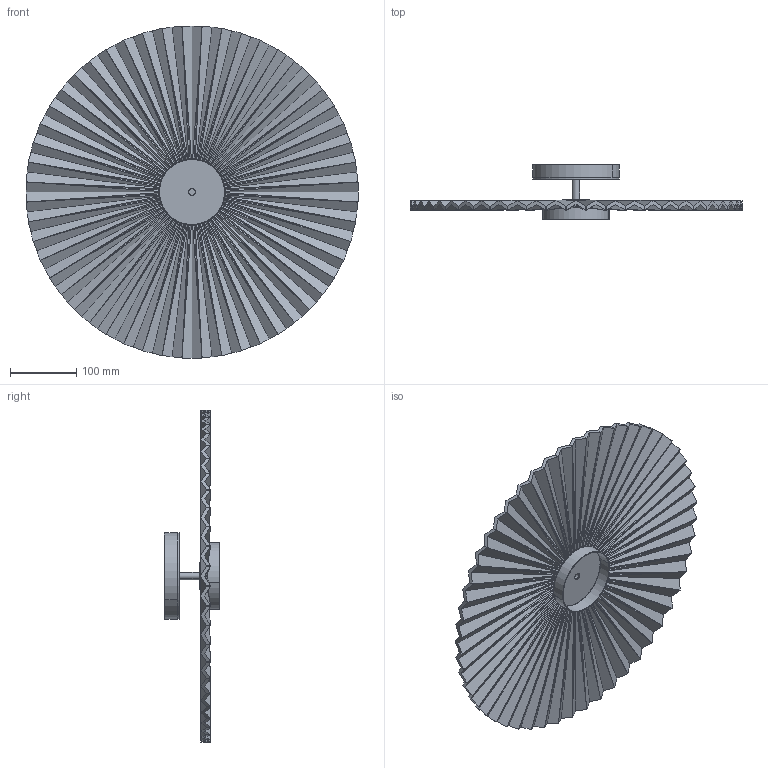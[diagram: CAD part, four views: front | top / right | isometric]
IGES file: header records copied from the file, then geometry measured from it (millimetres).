
Start section: SolidWorks IGES file using analytic representation for surfaces
Global section: file name: C:\Users\Agus\Desktop\incorporar\A1132-50\LED\A1132-50-LED.IGS; native system: SolidWorks 2018; preprocessor: SolidWorks 2018; author: Agus; date: 190301.101006; units: millimetre
Bounding box: 500 x 84 x 500 mm (x, y, z)
Surface area: 593401.9 mm2 (no closed solid volume)
Topology: 0 solids, 0 shells, 815 faces, 5104 edges, 5052 vertices
Faces by surface type: bspline 797, revolution 18
